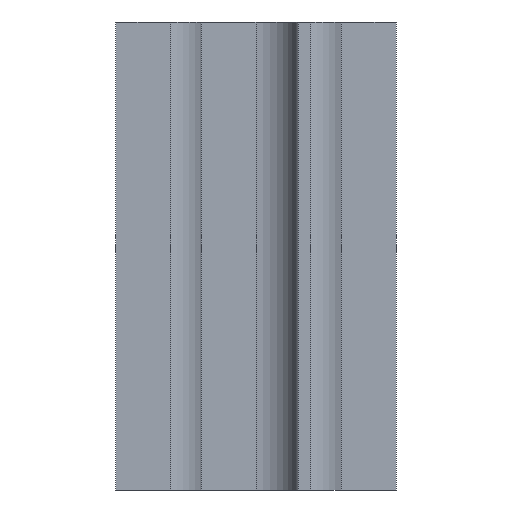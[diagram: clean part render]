
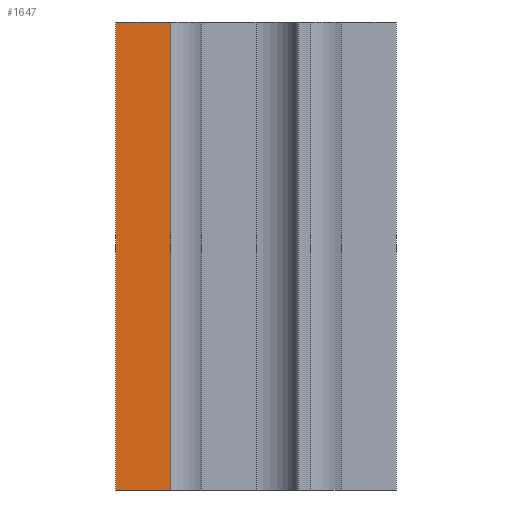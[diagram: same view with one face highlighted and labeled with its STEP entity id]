
A CAD part, left-side view. The second image highlights one B-rep face of the part: STEP entity #1647.
In plain terms, the highlighted planar face has unit normal (-1, 0, 0).
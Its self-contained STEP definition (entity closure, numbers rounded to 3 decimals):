
#101=ORIENTED_EDGE('',*,*,#585,.F.);
#102=ORIENTED_EDGE('',*,*,#586,.F.);
#103=ORIENTED_EDGE('',*,*,#587,.F.);
#104=ORIENTED_EDGE('',*,*,#588,.F.);
#585=EDGE_CURVE('',#827,#828,#993,.T.);
#586=EDGE_CURVE('',#829,#827,#994,.T.);
#587=EDGE_CURVE('',#830,#829,#995,.T.);
#588=EDGE_CURVE('',#828,#830,#996,.T.);
#827=VERTEX_POINT('',#2355);
#828=VERTEX_POINT('',#2356);
#829=VERTEX_POINT('',#2358);
#830=VERTEX_POINT('',#2360);
#993=LINE('',#2354,#1181);
#994=LINE('',#2357,#1182);
#995=LINE('',#2359,#1183);
#996=LINE('',#2361,#1184);
#1181=VECTOR('',#1888,1000.);
#1182=VECTOR('',#1889,1000.);
#1183=VECTOR('',#1890,1000.);
#1184=VECTOR('',#1891,1000.);
#1369=EDGE_LOOP('',(#101,#102,#103,#104));
#1479=FACE_BOUND('',#1369,.T.);
#1589=PLANE('',#1745);
#1647=ADVANCED_FACE('',(#1479),#1589,.T.);
#1745=AXIS2_PLACEMENT_3D('',#2353,#1886,#1887);
#1886=DIRECTION('',(-1.,0.,0.));
#1887=DIRECTION('',(0.,-1.,0.));
#1888=DIRECTION('',(0.,0.,1.));
#1889=DIRECTION('',(0.,1.,0.));
#1890=DIRECTION('',(0.,0.,-1.));
#1891=DIRECTION('',(0.,-1.,0.));
#2353=CARTESIAN_POINT('',(-30.,30.,0.));
#2354=CARTESIAN_POINT('',(-30.,30.,0.));
#2355=CARTESIAN_POINT('',(-30.,30.,-50.));
#2356=CARTESIAN_POINT('',(-30.,30.,50.));
#2357=CARTESIAN_POINT('',(-30.,30.,-50.));
#2358=CARTESIAN_POINT('',(-30.,18.25,-50.));
#2359=CARTESIAN_POINT('',(-30.,18.25,0.));
#2360=CARTESIAN_POINT('',(-30.,18.25,50.));
#2361=CARTESIAN_POINT('',(-30.,30.,50.));
